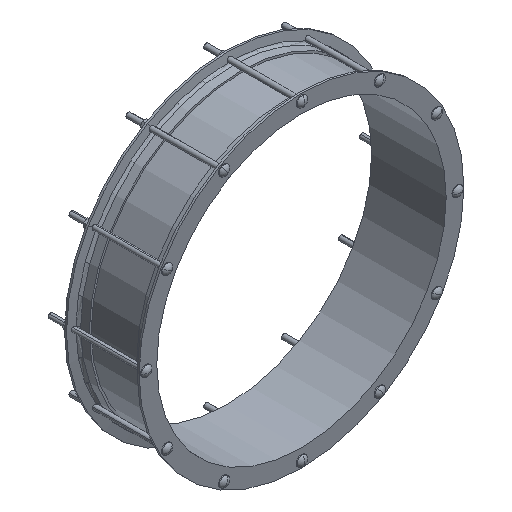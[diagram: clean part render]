
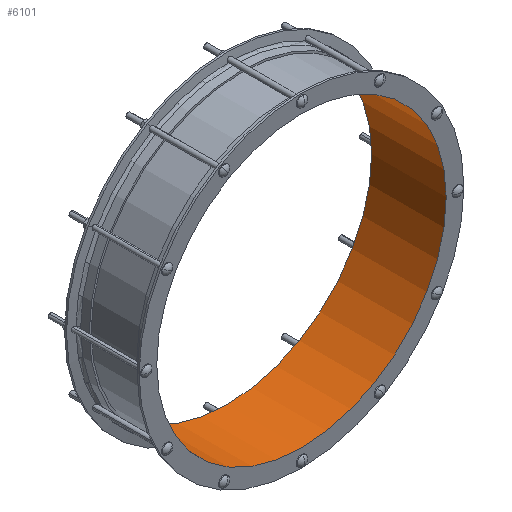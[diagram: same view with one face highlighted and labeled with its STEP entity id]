
A CAD part, isometric view. The second image highlights one B-rep face of the part: STEP entity #6101.
In plain terms, the highlighted cylindrical face has radius 357.25 mm (diameter 714.5 mm), a partial arc.
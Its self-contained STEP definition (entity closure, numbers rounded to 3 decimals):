
#255=CARTESIAN_POINT('',(0.,92.,0.));
#256=DIRECTION('',(0.,1.,0.));
#257=DIRECTION('',(-0.5,0.,0.866));
#258=AXIS2_PLACEMENT_3D('',#255,#256,#257);
#2579=DIRECTION('',(0.,1.,0.));
#2580=VECTOR('',#2579,184.);
#2581=CARTESIAN_POINT('',(-309.388,-92.,178.625));
#2582=LINE('',#2581,#2580);
#2583=DIRECTION('',(0.,1.,0.));
#2584=VECTOR('',#2583,184.);
#2585=CARTESIAN_POINT('',(-178.625,-92.,309.388));
#2586=LINE('',#2585,#2584);
#2587=CARTESIAN_POINT('',(0.,-92.,0.));
#2588=DIRECTION('',(0.,1.,0.));
#2589=DIRECTION('',(-0.5,0.,0.866));
#2590=AXIS2_PLACEMENT_3D('',#2587,#2588,#2589);
#4950=CARTESIAN_POINT('',(-309.388,-92.,178.625));
#4951=CARTESIAN_POINT('',(-309.388,92.,178.625));
#4952=VERTEX_POINT('',#4950);
#4953=VERTEX_POINT('',#4951);
#4986=CARTESIAN_POINT('',(-178.625,-92.,309.388));
#4987=CARTESIAN_POINT('',(-178.625,92.,309.388));
#4988=VERTEX_POINT('',#4986);
#4989=VERTEX_POINT('',#4987);
#6088=CARTESIAN_POINT('',(0.,-101.2,0.));
#6089=DIRECTION('',(0.,1.,0.));
#6090=DIRECTION('',(0.866,0.,0.5));
#6091=AXIS2_PLACEMENT_3D('',#6088,#6089,#6090);
#6092=CYLINDRICAL_SURFACE('',#6091,357.25);
#6094=ORIENTED_EDGE('',*,*,#6093,.T.);
#6095=ORIENTED_EDGE('',*,*,#5313,.F.);
#6097=ORIENTED_EDGE('',*,*,#6096,.F.);
#6098=ORIENTED_EDGE('',*,*,#6075,.T.);
#6099=EDGE_LOOP('',(#6094,#6095,#6097,#6098));
#6100=FACE_OUTER_BOUND('',#6099,.F.);
#6101=ADVANCED_FACE('',(#6100),#6092,.F.);
#259=CIRCLE('',#258,357.25);
#2591=CIRCLE('',#2590,357.25);
#5313=EDGE_CURVE('',#4989,#4953,#259,.T.);
#6075=EDGE_CURVE('',#4988,#4952,#2591,.T.);
#6093=EDGE_CURVE('',#4952,#4953,#2582,.T.);
#6096=EDGE_CURVE('',#4988,#4989,#2586,.T.);
